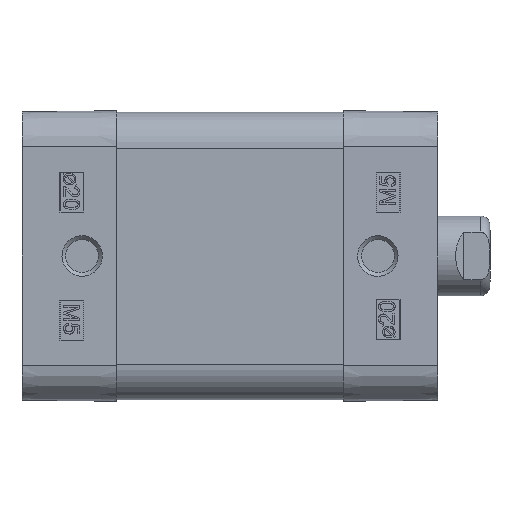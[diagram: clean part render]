
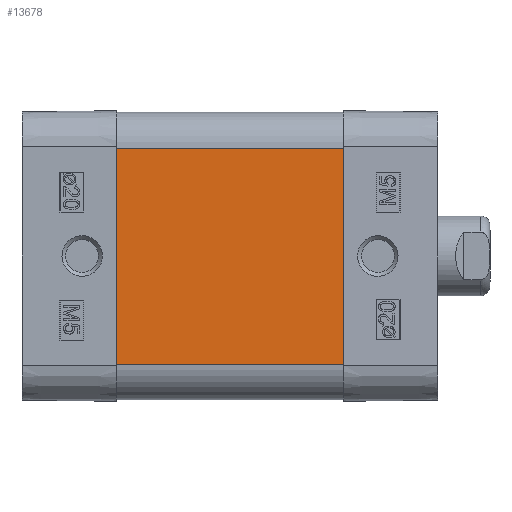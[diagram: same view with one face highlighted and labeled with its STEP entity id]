
A CAD part, left-side view. The second image highlights one B-rep face of the part: STEP entity #13678.
In plain terms, the highlighted planar face has unit normal (-1, 0, 0).
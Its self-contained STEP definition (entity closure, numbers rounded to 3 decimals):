
#468=PLANE('',#14541);
#3748=ORIENTED_EDGE('',*,*,#5080,.T.);
#3749=ORIENTED_EDGE('',*,*,#5246,.T.);
#3750=ORIENTED_EDGE('',*,*,#5247,.T.);
#3751=ORIENTED_EDGE('',*,*,#5136,.F.);
#5080=EDGE_CURVE('',#6118,#6119,#6974,.T.);
#5136=EDGE_CURVE('',#6118,#6174,#7002,.T.);
#5246=EDGE_CURVE('',#6119,#6229,#7084,.T.);
#5247=EDGE_CURVE('',#6229,#6174,#7085,.T.);
#6118=VERTEX_POINT('',#20892);
#6119=VERTEX_POINT('',#20893);
#6174=VERTEX_POINT('',#21005);
#6229=VERTEX_POINT('',#21223);
#6974=LINE('',#20891,#7814);
#7002=LINE('',#21004,#7842);
#7084=LINE('',#21224,#7924);
#7085=LINE('',#21226,#7925);
#7814=VECTOR('',#16725,1000.);
#7842=VECTOR('',#16811,1000.);
#7924=VECTOR('',#17057,1000.);
#7925=VECTOR('',#17060,1000.);
#8625=EDGE_LOOP('',(#3748,#3749,#3750,#3751));
#9357=FACE_BOUND('',#8625,.T.);
#13678=ADVANCED_FACE('',(#9357),#468,.T.);
#14541=AXIS2_PLACEMENT_3D('',#21225,#17058,#17059);
#16725=DIRECTION('',(0.,0.,-1.));
#16811=DIRECTION('',(0.,-1.,0.));
#17057=DIRECTION('',(0.,-1.,0.));
#17058=DIRECTION('',(-1.,0.,0.));
#17059=DIRECTION('',(0.,0.,1.));
#17060=DIRECTION('',(0.,0.,1.));
#20891=CARTESIAN_POINT('',(-18.,9.25,13.5));
#20892=CARTESIAN_POINT('',(-18.,9.25,13.5));
#20893=CARTESIAN_POINT('',(-18.,9.25,-13.5));
#21004=CARTESIAN_POINT('',(-18.,9.25,13.5));
#21005=CARTESIAN_POINT('',(-18.,-19.15,13.5));
#21223=CARTESIAN_POINT('',(-18.,-19.15,-13.5));
#21224=CARTESIAN_POINT('',(-18.,9.25,-13.5));
#21225=CARTESIAN_POINT('',(-18.,0.,13.5));
#21226=CARTESIAN_POINT('',(-18.,-19.15,-13.5));
